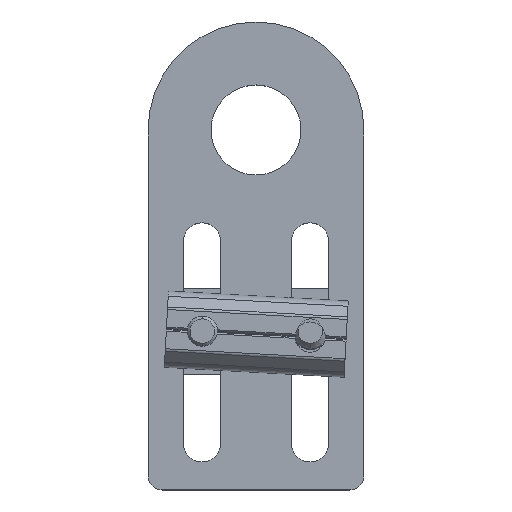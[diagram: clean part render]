
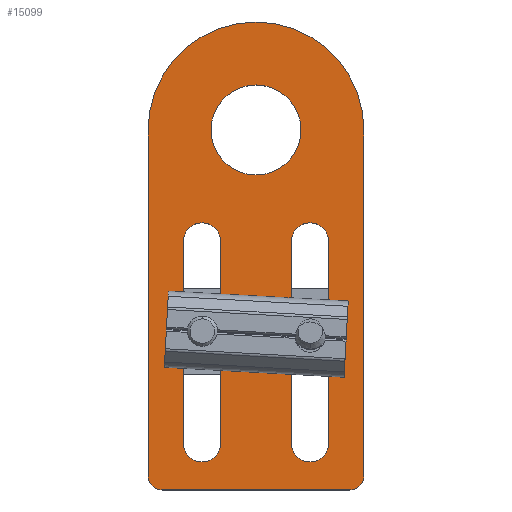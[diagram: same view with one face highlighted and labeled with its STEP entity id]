
A CAD part, top view. The second image highlights one B-rep face of the part: STEP entity #15099.
In plain terms, the highlighted planar face has unit normal (0, 0, 1).
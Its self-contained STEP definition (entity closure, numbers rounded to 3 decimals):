
#98 = CARTESIAN_POINT ( 'NONE',  ( -84.3, 26.56, 39.829 ) ) ;
#160 = VECTOR ( 'NONE', #16518, 1000. ) ;
#295 = VERTEX_POINT ( 'NONE', #19351 ) ;
#385 = DIRECTION ( 'NONE',  ( 0., 1., 0. ) ) ;
#396 = CARTESIAN_POINT ( 'NONE',  ( -74.2, 9.255, 39.829 ) ) ;
#996 = VECTOR ( 'NONE', #19152, 1000. ) ;
#1150 = CARTESIAN_POINT ( 'NONE',  ( -69.3, 26.56, 39.829 ) ) ;
#1282 = CARTESIAN_POINT ( 'NONE',  ( -79.4, 11.06, 39.829 ) ) ;
#1350 = DIRECTION ( 'NONE',  ( 0., 0., -1. ) ) ;
#2102 = DIRECTION ( 'NONE',  ( -1., 0., 0. ) ) ;
#2111 = EDGE_CURVE ( 'NONE', #20975, #20262, #14059, .T. ) ;
#2276 = DIRECTION ( 'NONE',  ( -1., 0., 0. ) ) ;
#2333 = ORIENTED_EDGE ( 'NONE', *, *, #24924, .T. ) ;
#2380 = CARTESIAN_POINT ( 'NONE',  ( -99.3, -23.44, 39.829 ) ) ;
#2448 = PLANE ( 'NONE',  #10312 ) ;
#2459 = VERTEX_POINT ( 'NONE', #20772 ) ;
#2599 = EDGE_CURVE ( 'NONE', #20262, #23474, #22135, .T. ) ;
#2740 = CARTESIAN_POINT ( 'NONE',  ( -89.2, 11.06, 39.829 ) ) ;
#2782 = AXIS2_PLACEMENT_3D ( 'NONE', #21569, #19590, #6147 ) ;
#2816 = VERTEX_POINT ( 'NONE', #1150 ) ;
#2893 = CARTESIAN_POINT ( 'NONE',  ( -94.4, 11.06, 39.829 ) ) ;
#3608 = CIRCLE ( 'NONE', #4989, 2.6 ) ;
#3763 = EDGE_CURVE ( 'NONE', #21057, #2459, #22680, .T. ) ;
#3785 = CARTESIAN_POINT ( 'NONE',  ( -69.3, 9.255, 39.829 ) ) ;
#4317 = EDGE_CURVE ( 'NONE', #17660, #14273, #8457, .T. ) ;
#4499 = EDGE_CURVE ( 'NONE', #16398, #17660, #11126, .T. ) ;
#4726 = EDGE_CURVE ( 'NONE', #24751, #20975, #11100, .T. ) ;
#4989 = AXIS2_PLACEMENT_3D ( 'NONE', #12661, #1350, #24289 ) ;
#5421 = ORIENTED_EDGE ( 'NONE', *, *, #22000, .T. ) ;
#5892 = VERTEX_POINT ( 'NONE', #14753 ) ;
#6147 = DIRECTION ( 'NONE',  ( -1., 0., 0. ) ) ;
#6327 = AXIS2_PLACEMENT_3D ( 'NONE', #15628, #13771, #2276 ) ;
#6408 = DIRECTION ( 'NONE',  ( 0., 0., -1. ) ) ;
#6514 = EDGE_LOOP ( 'NONE', ( #2333, #11414, #13745, #13111 ) ) ;
#6529 = VERTEX_POINT ( 'NONE', #7986 ) ;
#6854 = DIRECTION ( 'NONE',  ( -1., 0., 0. ) ) ;
#6958 = CARTESIAN_POINT ( 'NONE',  ( -99.3, -21.44, 39.829 ) ) ;
#7109 = CIRCLE ( 'NONE', #8691, 6.25 ) ;
#7243 = DIRECTION ( 'NONE',  ( -1., 0., 0. ) ) ;
#7832 = CARTESIAN_POINT ( 'NONE',  ( -97.3, -23.44, 39.829 ) ) ;
#7986 = CARTESIAN_POINT ( 'NONE',  ( -69.3, -21.44, 39.829 ) ) ;
#8009 = DIRECTION ( 'NONE',  ( -1., 0., 0. ) ) ;
#8116 = VECTOR ( 'NONE', #13904, 1000. ) ;
#8457 = LINE ( 'NONE', #19742, #17182 ) ;
#8659 = ORIENTED_EDGE ( 'NONE', *, *, #3763, .T. ) ;
#8691 = AXIS2_PLACEMENT_3D ( 'NONE', #13706, #19470, #8009 ) ;
#9013 = CARTESIAN_POINT ( 'NONE',  ( -99.3, 9.255, 39.829 ) ) ;
#9666 = CARTESIAN_POINT ( 'NONE',  ( -94.4, 9.255, 39.829 ) ) ;
#10148 = VERTEX_POINT ( 'NONE', #21749 ) ;
#10312 = AXIS2_PLACEMENT_3D ( 'NONE', #2380, #15897, #12156 ) ;
#11100 = LINE ( 'NONE', #9013, #13528 ) ;
#11103 = VECTOR ( 'NONE', #21241, 1000. ) ;
#11120 = CARTESIAN_POINT ( 'NONE',  ( -99.3, 26.56, 39.829 ) ) ;
#11126 = CIRCLE ( 'NONE', #23585, 2.6 ) ;
#11414 = ORIENTED_EDGE ( 'NONE', *, *, #4499, .T. ) ;
#11457 = CARTESIAN_POINT ( 'NONE',  ( -84.3, -23.44, 39.829 ) ) ;
#11493 = CARTESIAN_POINT ( 'NONE',  ( -94.4, -16.94, 39.829 ) ) ;
#11691 = LINE ( 'NONE', #3785, #11103 ) ;
#11757 = CARTESIAN_POINT ( 'NONE',  ( -84.3, 26.56, 39.829 ) ) ;
#12043 = DIRECTION ( 'NONE',  ( -1., 0., 0. ) ) ;
#12057 = FACE_BOUND ( 'NONE', #13409, .T. ) ;
#12156 = DIRECTION ( 'NONE',  ( 1., 0., 0. ) ) ;
#12199 = ORIENTED_EDGE ( 'NONE', *, *, #15324, .T. ) ;
#12608 = CIRCLE ( 'NONE', #22130, 6.25 ) ;
#12661 = CARTESIAN_POINT ( 'NONE',  ( -76.8, -16.94, 39.829 ) ) ;
#12680 = CIRCLE ( 'NONE', #24194, 2.6 ) ;
#12824 = ORIENTED_EDGE ( 'NONE', *, *, #14507, .T. ) ;
#12871 = DIRECTION ( 'NONE',  ( 0., 0., -1. ) ) ;
#13111 = ORIENTED_EDGE ( 'NONE', *, *, #24112, .T. ) ;
#13409 = EDGE_LOOP ( 'NONE', ( #17462, #19029 ) ) ;
#13528 = VECTOR ( 'NONE', #24234, 1000. ) ;
#13625 = DIRECTION ( 'NONE',  ( -1., 0., 0. ) ) ;
#13706 = CARTESIAN_POINT ( 'NONE',  ( -84.3, 26.56, 39.829 ) ) ;
#13745 = ORIENTED_EDGE ( 'NONE', *, *, #4317, .T. ) ;
#13771 = DIRECTION ( 'NONE',  ( 0., 0., 1. ) ) ;
#13888 = EDGE_CURVE ( 'NONE', #23474, #6529, #18712, .T. ) ;
#13904 = DIRECTION ( 'NONE',  ( 0., -1., 0. ) ) ;
#14059 = CIRCLE ( 'NONE', #6327, 2. ) ;
#14178 = FACE_OUTER_BOUND ( 'NONE', #22767, .T. ) ;
#14273 = VERTEX_POINT ( 'NONE', #24497 ) ;
#14409 = LINE ( 'NONE', #396, #8116 ) ;
#14507 = EDGE_CURVE ( 'NONE', #2816, #24751, #14876, .T. ) ;
#14557 = CARTESIAN_POINT ( 'NONE',  ( -79.4, 9.255, 39.829 ) ) ;
#14753 = CARTESIAN_POINT ( 'NONE',  ( -90.55, 26.56, 39.829 ) ) ;
#14770 = ORIENTED_EDGE ( 'NONE', *, *, #13888, .T. ) ;
#14874 = VERTEX_POINT ( 'NONE', #11493 ) ;
#14876 = CIRCLE ( 'NONE', #22092, 15. ) ;
#14974 = CARTESIAN_POINT ( 'NONE',  ( -91.8, 11.06, 39.829 ) ) ;
#15099 = ADVANCED_FACE ( 'NONE', ( #21421, #12057, #16919, #14178 ), #2448, .T. ) ;
#15324 = EDGE_CURVE ( 'NONE', #295, #17283, #3608, .T. ) ;
#15609 = EDGE_CURVE ( 'NONE', #10148, #5892, #12608, .T. ) ;
#15628 = CARTESIAN_POINT ( 'NONE',  ( -97.3, -21.44, 39.829 ) ) ;
#15897 = DIRECTION ( 'NONE',  ( 0., 0., 1. ) ) ;
#15915 = VECTOR ( 'NONE', #385, 1000. ) ;
#16371 = EDGE_CURVE ( 'NONE', #17283, #21057, #23686, .T. ) ;
#16375 = ORIENTED_EDGE ( 'NONE', *, *, #2599, .T. ) ;
#16398 = VERTEX_POINT ( 'NONE', #2893 ) ;
#16518 = DIRECTION ( 'NONE',  ( 0., 1., 0. ) ) ;
#16822 = AXIS2_PLACEMENT_3D ( 'NONE', #21591, #6408, #12043 ) ;
#16919 = FACE_BOUND ( 'NONE', #6514, .T. ) ;
#17182 = VECTOR ( 'NONE', #23762, 1000. ) ;
#17283 = VERTEX_POINT ( 'NONE', #17747 ) ;
#17308 = DIRECTION ( 'NONE',  ( 0., 0., 1. ) ) ;
#17462 = ORIENTED_EDGE ( 'NONE', *, *, #22449, .F. ) ;
#17660 = VERTEX_POINT ( 'NONE', #2740 ) ;
#17747 = CARTESIAN_POINT ( 'NONE',  ( -79.4, -16.94, 39.829 ) ) ;
#17776 = DIRECTION ( 'NONE',  ( 0., 0., 1. ) ) ;
#18286 = CARTESIAN_POINT ( 'NONE',  ( -71.3, -23.44, 39.829 ) ) ;
#18571 = CARTESIAN_POINT ( 'NONE',  ( -91.8, -16.94, 39.829 ) ) ;
#18712 = CIRCLE ( 'NONE', #2782, 2. ) ;
#19029 = ORIENTED_EDGE ( 'NONE', *, *, #15609, .F. ) ;
#19152 = DIRECTION ( 'NONE',  ( 1., 0., 0. ) ) ;
#19250 = LINE ( 'NONE', #9666, #15915 ) ;
#19351 = CARTESIAN_POINT ( 'NONE',  ( -74.2, -16.94, 39.829 ) ) ;
#19470 = DIRECTION ( 'NONE',  ( 0., 0., 1. ) ) ;
#19590 = DIRECTION ( 'NONE',  ( 0., 0., 1. ) ) ;
#19742 = CARTESIAN_POINT ( 'NONE',  ( -89.2, 9.255, 39.829 ) ) ;
#19884 = ORIENTED_EDGE ( 'NONE', *, *, #21861, .T. ) ;
#20262 = VERTEX_POINT ( 'NONE', #7832 ) ;
#20469 = DIRECTION ( 'NONE',  ( 0., 0., -1. ) ) ;
#20772 = CARTESIAN_POINT ( 'NONE',  ( -74.2, 11.06, 39.829 ) ) ;
#20975 = VERTEX_POINT ( 'NONE', #6958 ) ;
#21057 = VERTEX_POINT ( 'NONE', #1282 ) ;
#21215 = ORIENTED_EDGE ( 'NONE', *, *, #16371, .T. ) ;
#21241 = DIRECTION ( 'NONE',  ( 0., 1., 0. ) ) ;
#21367 = ORIENTED_EDGE ( 'NONE', *, *, #4726, .T. ) ;
#21421 = FACE_BOUND ( 'NONE', #21794, .T. ) ;
#21569 = CARTESIAN_POINT ( 'NONE',  ( -71.3, -21.44, 39.829 ) ) ;
#21591 = CARTESIAN_POINT ( 'NONE',  ( -76.8, 11.06, 39.829 ) ) ;
#21749 = CARTESIAN_POINT ( 'NONE',  ( -78.05, 26.56, 39.829 ) ) ;
#21794 = EDGE_LOOP ( 'NONE', ( #5421, #12199, #21215, #8659 ) ) ;
#21861 = EDGE_CURVE ( 'NONE', #6529, #2816, #11691, .T. ) ;
#22000 = EDGE_CURVE ( 'NONE', #2459, #295, #14409, .T. ) ;
#22006 = ORIENTED_EDGE ( 'NONE', *, *, #2111, .T. ) ;
#22092 = AXIS2_PLACEMENT_3D ( 'NONE', #11757, #17776, #13625 ) ;
#22130 = AXIS2_PLACEMENT_3D ( 'NONE', #98, #17308, #2102 ) ;
#22135 = LINE ( 'NONE', #11457, #996 ) ;
#22449 = EDGE_CURVE ( 'NONE', #5892, #10148, #7109, .T. ) ;
#22680 = CIRCLE ( 'NONE', #16822, 2.6 ) ;
#22767 = EDGE_LOOP ( 'NONE', ( #22006, #16375, #14770, #19884, #12824, #21367 ) ) ;
#23474 = VERTEX_POINT ( 'NONE', #18286 ) ;
#23585 = AXIS2_PLACEMENT_3D ( 'NONE', #14974, #12871, #7243 ) ;
#23686 = LINE ( 'NONE', #14557, #160 ) ;
#23762 = DIRECTION ( 'NONE',  ( 0., -1., 0. ) ) ;
#24112 = EDGE_CURVE ( 'NONE', #14273, #14874, #12680, .T. ) ;
#24194 = AXIS2_PLACEMENT_3D ( 'NONE', #18571, #20469, #6854 ) ;
#24234 = DIRECTION ( 'NONE',  ( 0., -1., 0. ) ) ;
#24289 = DIRECTION ( 'NONE',  ( -1., 0., 0. ) ) ;
#24497 = CARTESIAN_POINT ( 'NONE',  ( -89.2, -16.94, 39.829 ) ) ;
#24751 = VERTEX_POINT ( 'NONE', #11120 ) ;
#24924 = EDGE_CURVE ( 'NONE', #14874, #16398, #19250, .T. ) ;
